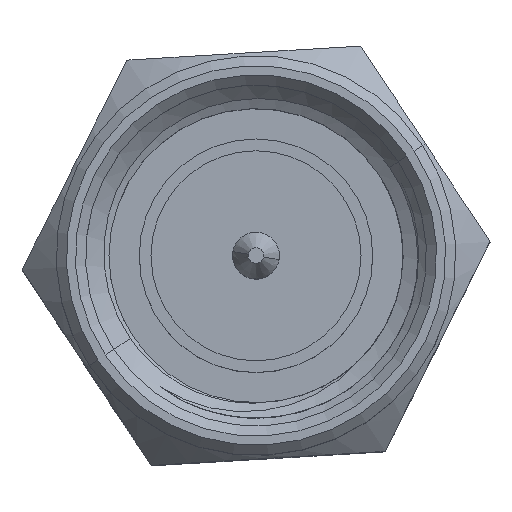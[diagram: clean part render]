
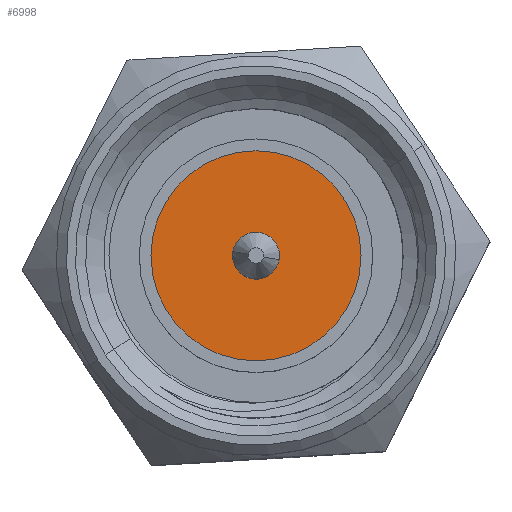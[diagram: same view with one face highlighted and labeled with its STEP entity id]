
A CAD part, top view. The second image highlights one B-rep face of the part: STEP entity #6998.
In plain terms, the highlighted planar face has unit normal (0, 0, 1).
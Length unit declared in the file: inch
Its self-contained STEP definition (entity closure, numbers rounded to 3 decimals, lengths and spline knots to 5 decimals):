
#138 = FACE_OUTER_BOUND ( 'NONE', #26044, .T. ) ;
#725 = ORIENTED_EDGE ( 'NONE', *, *, #2545, .F. ) ;
#824 = CARTESIAN_POINT ( 'NONE',  ( 0., 0.01786, -0.00466 ) ) ;
#2049 = CIRCLE ( 'NONE', #10523, 0.0807 ) ;
#2336 = DIRECTION ( 'NONE',  ( 0., 0., 1. ) ) ;
#2419 = DIRECTION ( 'NONE',  ( 0., 0., -1. ) ) ;
#2545 = EDGE_CURVE ( 'NONE', #4364, #17769, #2049, .T. ) ;
#2638 = CARTESIAN_POINT ( 'NONE',  ( 0., 0., -0.00466 ) ) ;
#2651 = ORIENTED_EDGE ( 'NONE', *, *, #19396, .F. ) ;
#3037 = DIRECTION ( 'NONE',  ( -1., 0., 0. ) ) ;
#3941 = EDGE_CURVE ( 'NONE', #15809, #7537, #26892, .T. ) ;
#4135 = DIRECTION ( 'NONE',  ( 0., 0., 1. ) ) ;
#4364 = VERTEX_POINT ( 'NONE', #23962 ) ;
#4769 = DIRECTION ( 'NONE',  ( -1., 0., 0. ) ) ;
#6648 = AXIS2_PLACEMENT_3D ( 'NONE', #16824, #4135, #18960 ) ;
#6998 = ADVANCED_FACE ( 'NONE', ( #27027, #138 ), #7227, .F. ) ;
#7227 = PLANE ( 'NONE',  #14451 ) ;
#7537 = VERTEX_POINT ( 'NONE', #10534 ) ;
#9288 = CARTESIAN_POINT ( 'NONE',  ( 0.0807, 0., -0.00466 ) ) ;
#10523 = AXIS2_PLACEMENT_3D ( 'NONE', #15146, #2419, #17232 ) ;
#10534 = CARTESIAN_POINT ( 'NONE',  ( -0.01773, 0.00308, -0.00466 ) ) ;
#11427 = AXIS2_PLACEMENT_3D ( 'NONE', #15068, #2336, #17165 ) ;
#11545 = CIRCLE ( 'NONE', #11427, 0.018 ) ;
#12528 = EDGE_CURVE ( 'NONE', #17769, #4364, #22958, .T. ) ;
#14451 = AXIS2_PLACEMENT_3D ( 'NONE', #824, #15755, #3037 ) ;
#15068 = CARTESIAN_POINT ( 'NONE',  ( 0., 0., -0.00466 ) ) ;
#15146 = CARTESIAN_POINT ( 'NONE',  ( 0., 0., -0.00466 ) ) ;
#15755 = DIRECTION ( 'NONE',  ( 0., 0., -1. ) ) ;
#15809 = VERTEX_POINT ( 'NONE', #21674 ) ;
#16824 = CARTESIAN_POINT ( 'NONE',  ( 0., 0., -0.00466 ) ) ;
#17165 = DIRECTION ( 'NONE',  ( -1., 0., 0. ) ) ;
#17232 = DIRECTION ( 'NONE',  ( -1., 0., 0. ) ) ;
#17484 = DIRECTION ( 'NONE',  ( 0., 0., -1. ) ) ;
#17769 = VERTEX_POINT ( 'NONE', #9288 ) ;
#18801 = ORIENTED_EDGE ( 'NONE', *, *, #3941, .F. ) ;
#18960 = DIRECTION ( 'NONE',  ( -1., 0., 0. ) ) ;
#19396 = EDGE_CURVE ( 'NONE', #7537, #15809, #11545, .T. ) ;
#21455 = ORIENTED_EDGE ( 'NONE', *, *, #12528, .F. ) ;
#21674 = CARTESIAN_POINT ( 'NONE',  ( 0.01773, -0.00308, -0.00466 ) ) ;
#22958 = CIRCLE ( 'NONE', #24814, 0.0807 ) ;
#23962 = CARTESIAN_POINT ( 'NONE',  ( -0.0807, 0., -0.00466 ) ) ;
#24409 = EDGE_LOOP ( 'NONE', ( #2651, #18801 ) ) ;
#24814 = AXIS2_PLACEMENT_3D ( 'NONE', #2638, #17484, #4769 ) ;
#26044 = EDGE_LOOP ( 'NONE', ( #21455, #725 ) ) ;
#26892 = CIRCLE ( 'NONE', #6648, 0.018 ) ;
#27027 = FACE_BOUND ( 'NONE', #24409, .T. ) ;
